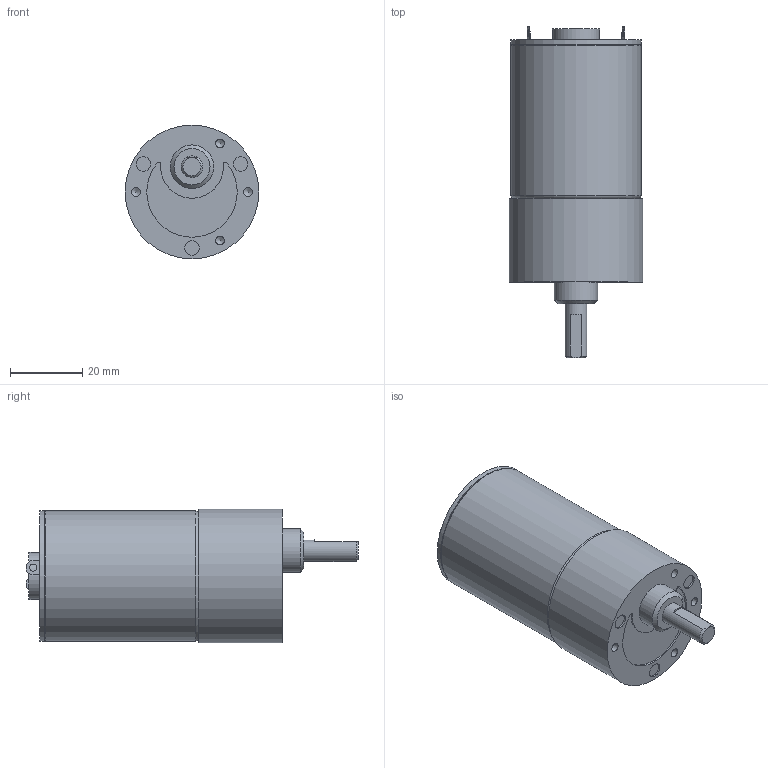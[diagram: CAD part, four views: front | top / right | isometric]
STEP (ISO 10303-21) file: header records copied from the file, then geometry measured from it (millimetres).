
FILE_DESCRIPTION((''),'2;1');
FILE_NAME('C:\Documents and Settings\SSEGAWA\デスクトップ\TP-3644D-KG-3.STP','2013-07-25T10:59:36',('SSEGAWA'),(''),'Autodesk Inventor 2010','Autodesk Inventor 2010','');
FILE_SCHEMA(('CONFIG_CONTROL_DESIGN'));
Length unit declared in the file: millimetre
Products named in the file (3): tp_3644dh_kg-3; kg_3; tp_3644d,h
Assembly tree (2 placements, depth 2):
  tp_3644dh_kg-3
    kg_3
    tp_3644d,h
Bounding box: 37 x 91.8 x 37 mm (x, y, z)
Volume: 70842.6 mm3; surface area: 12848.4 mm2
Topology: 2 solids, 2 shells, 67 faces, 144 edges, 96 vertices
Faces by surface type: plane 27, cylinder 20, bspline 16, cone 2, torus 2
Full cylindrical faces by diameter (mm): 3 x1, 3.175 x1, 3.5 x1, 4 x3, 6 x1, 10 x1, 12 x1, 13 x1, 35.6 x1, 36 x2, 37 x1
Entity records: 1801 total; most frequent: CARTESIAN_POINT 517, DIRECTION 265, ORIENTED_EDGE 184, AXIS2_PLACEMENT_3D 119, EDGE_LOOP 119, EDGE_CURVE 92, VERTEX_POINT 77, FACE_OUTER_BOUND 67
